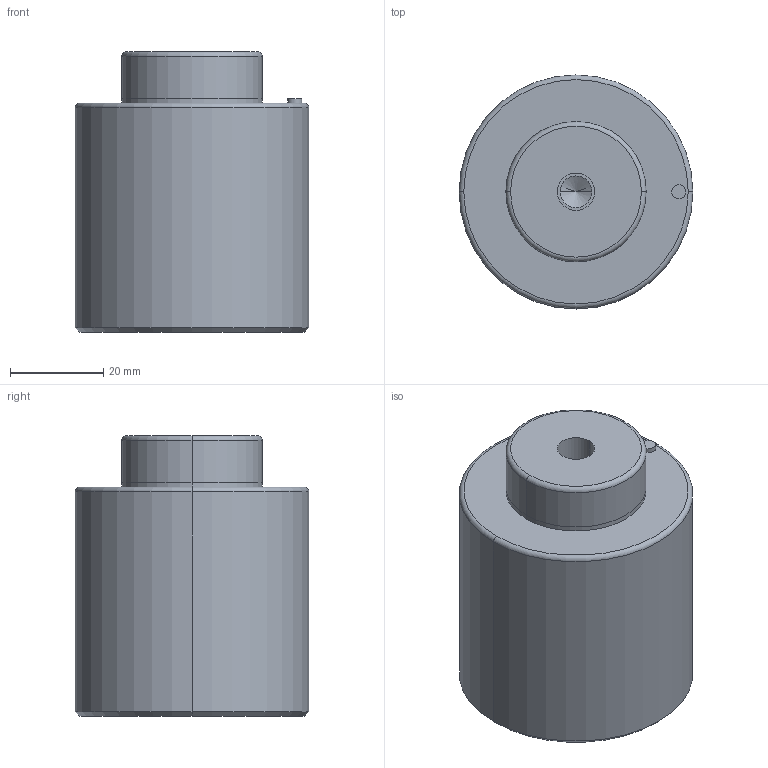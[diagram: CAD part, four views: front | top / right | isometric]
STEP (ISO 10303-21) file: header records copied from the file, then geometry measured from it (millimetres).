
FILE_DESCRIPTION(/* description */ (''),/* implementation_level */ '2;1');
FILE_NAME(/* name */ '3d_gsc50-10_03841_r00.stp',/* time_stamp */ '2011-01-10T14:15:21+09:00',/* author */ ('MISUMI'),/* organization */ (''),/* preprocessor_version */ 'ST-DEVELOPER v11',/* originating_system */ 'UGS - NX 5.0',/* authorisation */ '');
FILE_SCHEMA (('CONFIG_CONTROL_DESIGN'));
Length unit declared in the file: millimetre
Products named in the file (1): 3d_gsc50-10_03841_r00
Bounding box: 50 x 50 x 60 mm (x, y, z)
Volume: 101874.9 mm3; surface area: 13353.2 mm2
Topology: 1 solids, 1 shells, 32 faces, 66 edges, 38 vertices
Faces by surface type: cylinder 16, cone 6, plane 6, torus 4
Entity records: 912 total; most frequent: DIRECTION 168, CARTESIAN_POINT 133, ORIENTED_EDGE 124, AXIS2_PLACEMENT_3D 73, EDGE_CURVE 62, CIRCLE 40, EDGE_LOOP 38, VERTEX_POINT 38
